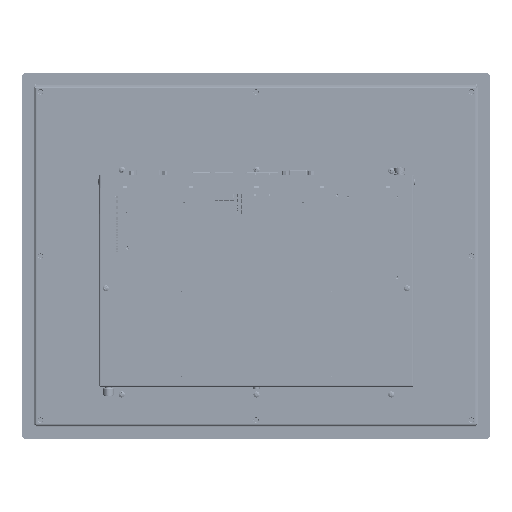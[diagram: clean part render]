
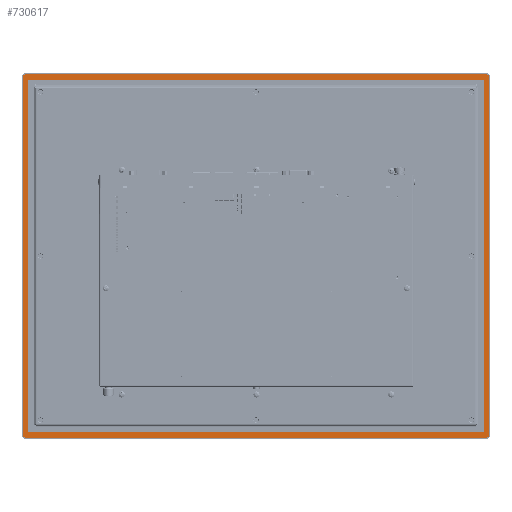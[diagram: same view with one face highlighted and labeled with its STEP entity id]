
A CAD part, front view. The second image highlights one B-rep face of the part: STEP entity #730617.
In plain terms, the highlighted planar face has unit normal (0, -1, 0).
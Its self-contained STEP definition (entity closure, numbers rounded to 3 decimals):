
#2212 = DIRECTION ( 'NONE',  ( 0., 0., -1. ) ) ;
#2649 = ORIENTED_EDGE ( 'NONE', *, *, #353871, .F. ) ;
#13606 = VERTEX_POINT ( 'NONE', #279656 ) ;
#19916 = DIRECTION ( 'NONE',  ( 0., -1., 0. ) ) ;
#20771 = EDGE_CURVE ( 'NONE', #52059, #529716, #175825, .T. ) ;
#32185 = LINE ( 'NONE', #482688, #358883 ) ;
#34972 = ORIENTED_EDGE ( 'NONE', *, *, #537775, .F. ) ;
#35094 = CARTESIAN_POINT ( 'NONE',  ( -226.5, 0.5, -164.5 ) ) ;
#35415 = CARTESIAN_POINT ( 'NONE',  ( 0., 0.5, 0. ) ) ;
#37447 = CARTESIAN_POINT ( 'NONE',  ( 221.5, 0.5, -160.5 ) ) ;
#41129 = DIRECTION ( 'NONE',  ( 0., -1., 0. ) ) ;
#47675 = ORIENTED_EDGE ( 'NONE', *, *, #151531, .F. ) ;
#50518 = VECTOR ( 'NONE', #603209, 1000. ) ;
#52059 = VERTEX_POINT ( 'NONE', #57616 ) ;
#57616 = CARTESIAN_POINT ( 'NONE',  ( -224.5, 0.5, 186.5 ) ) ;
#60987 = VECTOR ( 'NONE', #101595, 1000. ) ;
#72986 = VERTEX_POINT ( 'NONE', #265179 ) ;
#75128 = EDGE_CURVE ( 'NONE', #691917, #649733, #479262, .T. ) ;
#76647 = DIRECTION ( 'NONE',  ( 1., 0., 0. ) ) ;
#84002 = AXIS2_PLACEMENT_3D ( 'NONE', #195598, #650421, #529301 ) ;
#95822 = EDGE_CURVE ( 'NONE', #564432, #469083, #400833, .T. ) ;
#97756 = CARTESIAN_POINT ( 'NONE',  ( 220.5, 0.5, -160.5 ) ) ;
#98912 = FACE_OUTER_BOUND ( 'NONE', #484709, .T. ) ;
#101595 = DIRECTION ( 'NONE',  ( 1., 0., 0. ) ) ;
#113038 = VECTOR ( 'NONE', #187715, 1000. ) ;
#119753 = DIRECTION ( 'NONE',  ( 0., 1., 0. ) ) ;
#124186 = EDGE_LOOP ( 'NONE', ( #34972, #148361, #636826, #359559, #473824, #245214, #2649, #512683 ) ) ;
#136339 = CIRCLE ( 'NONE', #645516, 1. ) ;
#140354 = CARTESIAN_POINT ( 'NONE',  ( -221.5, 0.5, -160.5 ) ) ;
#142315 = AXIS2_PLACEMENT_3D ( 'NONE', #230900, #119753, #278046 ) ;
#145247 = EDGE_CURVE ( 'NONE', #481936, #564432, #654907, .T. ) ;
#145474 = CARTESIAN_POINT ( 'NONE',  ( -220.5, 0.5, -161.5 ) ) ;
#148361 = ORIENTED_EDGE ( 'NONE', *, *, #75128, .F. ) ;
#151531 = EDGE_CURVE ( 'NONE', #435671, #277488, #216210, .T. ) ;
#162164 = EDGE_CURVE ( 'NONE', #696437, #72986, #383971, .T. ) ;
#175825 = LINE ( 'NONE', #319309, #60987 ) ;
#178602 = ORIENTED_EDGE ( 'NONE', *, *, #330945, .F. ) ;
#179894 = AXIS2_PLACEMENT_3D ( 'NONE', #329760, #495338, #552137 ) ;
#187715 = DIRECTION ( 'NONE',  ( 0., 0., -1. ) ) ;
#187783 = CARTESIAN_POINT ( 'NONE',  ( 220.5, 0.5, 180.5 ) ) ;
#189356 = EDGE_CURVE ( 'NONE', #280448, #435671, #676396, .T. ) ;
#195598 = CARTESIAN_POINT ( 'NONE',  ( -220.5, 0.5, -160.5 ) ) ;
#203300 = VERTEX_POINT ( 'NONE', #626864 ) ;
#216210 = CIRCLE ( 'NONE', #142315, 2. ) ;
#218660 = DIRECTION ( 'NONE',  ( 0., 0., -1. ) ) ;
#223736 = VECTOR ( 'NONE', #571889, 1000. ) ;
#230900 = CARTESIAN_POINT ( 'NONE',  ( 224.5, 0.5, -164.5 ) ) ;
#243059 = VECTOR ( 'NONE', #398415, 1000. ) ;
#243872 = VERTEX_POINT ( 'NONE', #290014 ) ;
#245214 = ORIENTED_EDGE ( 'NONE', *, *, #162164, .F. ) ;
#259279 = LINE ( 'NONE', #730163, #223736 ) ;
#265179 = CARTESIAN_POINT ( 'NONE',  ( 220.5, 0.5, 181.5 ) ) ;
#277488 = VERTEX_POINT ( 'NONE', #421989 ) ;
#278046 = DIRECTION ( 'NONE',  ( 1., 0., 0. ) ) ;
#279656 = CARTESIAN_POINT ( 'NONE',  ( -220.5, 0.5, 181.5 ) ) ;
#280448 = VERTEX_POINT ( 'NONE', #472596 ) ;
#282644 = ORIENTED_EDGE ( 'NONE', *, *, #145247, .F. ) ;
#290014 = CARTESIAN_POINT ( 'NONE',  ( 220.5, 0.5, -161.5 ) ) ;
#303908 = EDGE_CURVE ( 'NONE', #469083, #52059, #498098, .T. ) ;
#306729 = CARTESIAN_POINT ( 'NONE',  ( -226.5, 0.5, -164.5 ) ) ;
#307643 = ORIENTED_EDGE ( 'NONE', *, *, #303908, .F. ) ;
#318107 = EDGE_CURVE ( 'NONE', #13606, #203300, #635078, .T. ) ;
#319309 = CARTESIAN_POINT ( 'NONE',  ( -224.5, 0.5, 186.5 ) ) ;
#322508 = ORIENTED_EDGE ( 'NONE', *, *, #189356, .F. ) ;
#329760 = CARTESIAN_POINT ( 'NONE',  ( -224.5, 0.5, 184.5 ) ) ;
#330945 = EDGE_CURVE ( 'NONE', #529716, #280448, #355880, .T. ) ;
#336875 = CARTESIAN_POINT ( 'NONE',  ( 226.5, 0.5, 184.5 ) ) ;
#339065 = VECTOR ( 'NONE', #417475, 1000. ) ;
#343390 = AXIS2_PLACEMENT_3D ( 'NONE', #714749, #712323, #658088 ) ;
#353871 = EDGE_CURVE ( 'NONE', #625319, #696437, #430372, .T. ) ;
#355880 = CIRCLE ( 'NONE', #555712, 2. ) ;
#358883 = VECTOR ( 'NONE', #594041, 1000. ) ;
#359559 = ORIENTED_EDGE ( 'NONE', *, *, #318107, .F. ) ;
#360138 = ORIENTED_EDGE ( 'NONE', *, *, #95822, .F. ) ;
#383971 = CIRCLE ( 'NONE', #616226, 1. ) ;
#387082 = CARTESIAN_POINT ( 'NONE',  ( -226.5, 0.5, 184.5 ) ) ;
#398415 = DIRECTION ( 'NONE',  ( 0., 0., -1. ) ) ;
#400833 = LINE ( 'NONE', #35094, #542010 ) ;
#407187 = CARTESIAN_POINT ( 'NONE',  ( 221.5, 0.5, -160.5 ) ) ;
#417475 = DIRECTION ( 'NONE',  ( 1., 0., 0. ) ) ;
#421989 = CARTESIAN_POINT ( 'NONE',  ( 224.5, 0.5, -166.5 ) ) ;
#430372 = LINE ( 'NONE', #37447, #50518 ) ;
#432604 = DIRECTION ( 'NONE',  ( 0., 0., 1. ) ) ;
#435671 = VERTEX_POINT ( 'NONE', #521717 ) ;
#437986 = ORIENTED_EDGE ( 'NONE', *, *, #690945, .F. ) ;
#455422 = EDGE_CURVE ( 'NONE', #72986, #13606, #259279, .T. ) ;
#467827 = EDGE_CURVE ( 'NONE', #203300, #691917, #502387, .T. ) ;
#469083 = VERTEX_POINT ( 'NONE', #387082 ) ;
#470441 = FACE_BOUND ( 'NONE', #124186, .T. ) ;
#470452 = PLANE ( 'NONE',  #498122 ) ;
#472596 = CARTESIAN_POINT ( 'NONE',  ( 226.5, 0.5, 184.5 ) ) ;
#473824 = ORIENTED_EDGE ( 'NONE', *, *, #455422, .F. ) ;
#475942 = CARTESIAN_POINT ( 'NONE',  ( 221.5, 0.5, 180.5 ) ) ;
#479262 = CIRCLE ( 'NONE', #84002, 1. ) ;
#481936 = VERTEX_POINT ( 'NONE', #513194 ) ;
#482688 = CARTESIAN_POINT ( 'NONE',  ( 224.5, 0.5, -166.5 ) ) ;
#484709 = EDGE_LOOP ( 'NONE', ( #322508, #178602, #677831, #307643, #360138, #282644, #437986, #47675 ) ) ;
#495338 = DIRECTION ( 'NONE',  ( 0., 1., 0. ) ) ;
#498098 = CIRCLE ( 'NONE', #179894, 2. ) ;
#498122 = AXIS2_PLACEMENT_3D ( 'NONE', #35415, #548266, #675786 ) ;
#502387 = LINE ( 'NONE', #642516, #113038 ) ;
#508646 = CARTESIAN_POINT ( 'NONE',  ( -224.5, 0.5, -164.5 ) ) ;
#512683 = ORIENTED_EDGE ( 'NONE', *, *, #608204, .F. ) ;
#513194 = CARTESIAN_POINT ( 'NONE',  ( -224.5, 0.5, -166.5 ) ) ;
#521717 = CARTESIAN_POINT ( 'NONE',  ( 226.5, 0.5, -164.5 ) ) ;
#529301 = DIRECTION ( 'NONE',  ( -1., 0., 0. ) ) ;
#529716 = VERTEX_POINT ( 'NONE', #724578 ) ;
#537775 = EDGE_CURVE ( 'NONE', #649733, #243872, #692868, .T. ) ;
#542010 = VECTOR ( 'NONE', #432604, 1000. ) ;
#548266 = DIRECTION ( 'NONE',  ( 0., -1., 0. ) ) ;
#552137 = DIRECTION ( 'NONE',  ( -1., 0., 0. ) ) ;
#555712 = AXIS2_PLACEMENT_3D ( 'NONE', #561446, #615928, #729468 ) ;
#561446 = CARTESIAN_POINT ( 'NONE',  ( 224.5, 0.5, 184.5 ) ) ;
#564432 = VERTEX_POINT ( 'NONE', #306729 ) ;
#571889 = DIRECTION ( 'NONE',  ( -1., 0., 0. ) ) ;
#594041 = DIRECTION ( 'NONE',  ( -1., 0., 0. ) ) ;
#603209 = DIRECTION ( 'NONE',  ( 0., 0., 1. ) ) ;
#608204 = EDGE_CURVE ( 'NONE', #243872, #625319, #136339, .T. ) ;
#615928 = DIRECTION ( 'NONE',  ( 0., 1., 0. ) ) ;
#616226 = AXIS2_PLACEMENT_3D ( 'NONE', #187783, #19916, #76647 ) ;
#617318 = AXIS2_PLACEMENT_3D ( 'NONE', #508646, #684046, #2212 ) ;
#625319 = VERTEX_POINT ( 'NONE', #407187 ) ;
#626864 = CARTESIAN_POINT ( 'NONE',  ( -221.5, 0.5, 180.5 ) ) ;
#635078 = CIRCLE ( 'NONE', #343390, 1. ) ;
#636826 = ORIENTED_EDGE ( 'NONE', *, *, #467827, .F. ) ;
#640171 = CARTESIAN_POINT ( 'NONE',  ( -220.5, 0.5, -161.5 ) ) ;
#642516 = CARTESIAN_POINT ( 'NONE',  ( -221.5, 0.5, 180.5 ) ) ;
#645516 = AXIS2_PLACEMENT_3D ( 'NONE', #97756, #41129, #218660 ) ;
#649733 = VERTEX_POINT ( 'NONE', #145474 ) ;
#650421 = DIRECTION ( 'NONE',  ( 0., -1., 0. ) ) ;
#654907 = CIRCLE ( 'NONE', #617318, 2. ) ;
#658088 = DIRECTION ( 'NONE',  ( 0., 0., 1. ) ) ;
#675786 = DIRECTION ( 'NONE',  ( -1., 0., 0. ) ) ;
#676396 = LINE ( 'NONE', #336875, #243059 ) ;
#677831 = ORIENTED_EDGE ( 'NONE', *, *, #20771, .F. ) ;
#684046 = DIRECTION ( 'NONE',  ( 0., 1., 0. ) ) ;
#690945 = EDGE_CURVE ( 'NONE', #277488, #481936, #32185, .T. ) ;
#691917 = VERTEX_POINT ( 'NONE', #140354 ) ;
#692868 = LINE ( 'NONE', #640171, #339065 ) ;
#696437 = VERTEX_POINT ( 'NONE', #475942 ) ;
#712323 = DIRECTION ( 'NONE',  ( 0., -1., 0. ) ) ;
#714749 = CARTESIAN_POINT ( 'NONE',  ( -220.5, 0.5, 180.5 ) ) ;
#724578 = CARTESIAN_POINT ( 'NONE',  ( 224.5, 0.5, 186.5 ) ) ;
#729468 = DIRECTION ( 'NONE',  ( 0., 0., 1. ) ) ;
#730163 = CARTESIAN_POINT ( 'NONE',  ( 220.5, 0.5, 181.5 ) ) ;
#730617 = ADVANCED_FACE ( 'NONE', ( #470441, #98912 ), #470452, .T. ) ;
